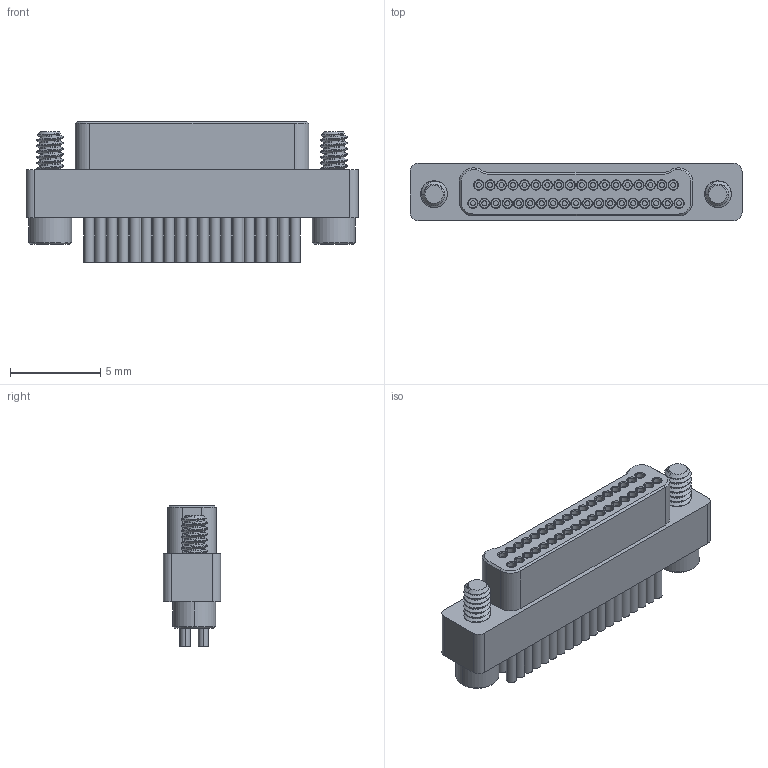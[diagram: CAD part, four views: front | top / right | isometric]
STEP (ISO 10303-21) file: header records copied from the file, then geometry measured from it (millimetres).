
FILE_DESCRIPTION((''),'2;1');
FILE_NAME('C-3-1925219-5','2016-07-12T',('workeradm'),('Tyco Electronics Ltd.'),'CREO PARAMETRIC BY PTC INC, 2016050','CREO PARAMETRIC BY PTC INC, 2016050','');
FILE_SCHEMA(('AUTOMOTIVE_DESIGN { 1 0 10303 214 1 1 1 1 }'));
Length unit declared in the file: millimetre
Products named in the file (1): C-3-1925219-5
Bounding box: 18.41 x 3.17 x 7.82 mm (x, y, z)
Volume: 267.6 mm3; surface area: 690.9 mm2
Topology: 1 solids, 1 shells, 510 faces, 1074 edges, 684 vertices
Faces by surface type: cylinder 260, plane 144, cone 88, bspline 18
Entity records: 17523 total; most frequent: CARTESIAN_POINT 6059, DIRECTION 2542, ORIENTED_EDGE 2148, EDGE_CURVE 1074, AXIS2_PLACEMENT_3D 1058, VERTEX_POINT 684, EDGE_LOOP 628, CIRCLE 566
